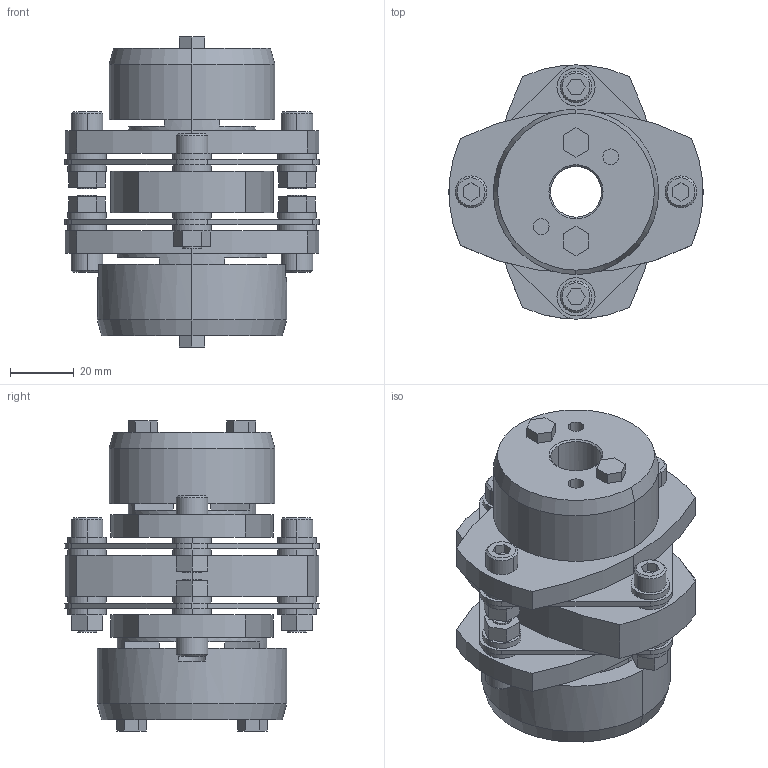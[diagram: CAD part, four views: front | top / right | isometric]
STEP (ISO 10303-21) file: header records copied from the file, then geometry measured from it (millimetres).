
FILE_DESCRIPTION((''),'2;1');
FILE_NAME('LCD-80T7-16×24.stp','2015-10-31T17:22:13',(''),(''),'AutoCAD STEP 2000i','AutoCAD 2000i',', , ');
FILE_SCHEMA(('CONFIG_CONTROL_DESIGN'));
Length unit declared in the file: millimetre
Products named in the file (8): LCD-80T7-17×24; 忣兜1; LC80T7-T024; LC80T7-T022; LC80T7-T019; LC80T7-T017-1; LC80T7-T017; LCD80-ITA
Assembly tree (7 placements, depth 2):
  LCD-80T7-17×24
    忣兜1
    LC80T7-T024
    LC80T7-T022
    LC80T7-T019
    LC80T7-T017-1
    LC80T7-T017
    LCD80-ITA
Bounding box: 80 x 79.95 x 97.5 mm (x, y, z)
Volume: 193134.5 mm3; surface area: 58256 mm2
Topology: 1 solids, 1 shells, 310 faces, 756 edges, 496 vertices
Faces by surface type: plane 164, cylinder 122, cone 24
Entity records: 9401 total; most frequent: DIRECTION 1680, CARTESIAN_POINT 1570, ORIENTED_EDGE 1512, EDGE_CURVE 756, AXIS2_PLACEMENT_3D 606, VERTEX_POINT 496, VECTOR 468, LINE 468
